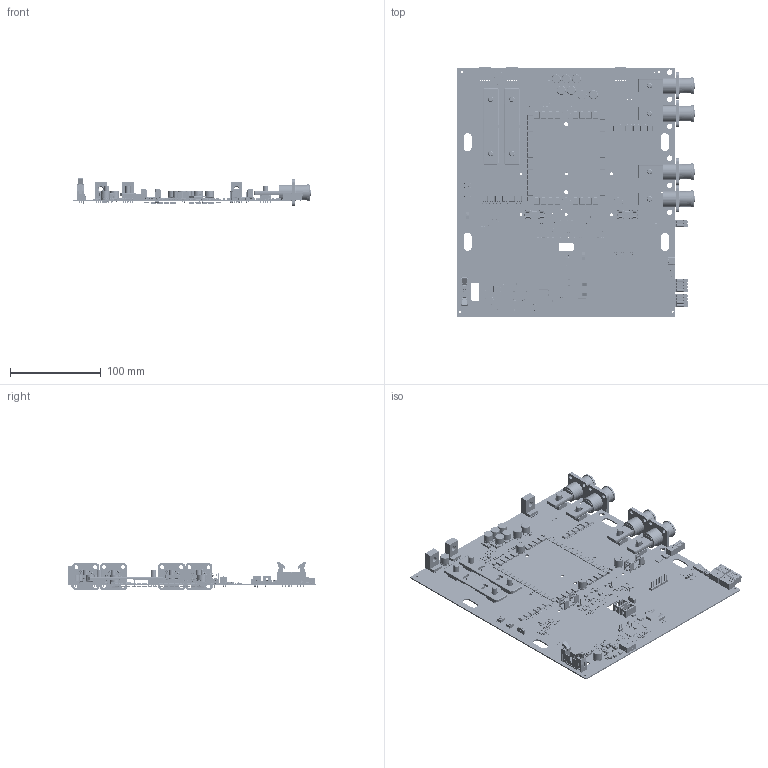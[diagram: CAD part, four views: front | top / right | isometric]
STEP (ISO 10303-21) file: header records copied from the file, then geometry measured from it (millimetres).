
FILE_DESCRIPTION(('KiCad electronic assembly'),'2;1');
FILE_NAME('smartPro.step','2026-01-18T19:30:28',('Pcbnew'),('Kicad'), 'Open CASCADE STEP processor 7.9','KiCad to STEP converter','Unknown' );
FILE_SCHEMA(('AUTOMOTIVE_DESIGN { 1 0 10303 214 1 1 1 1 }'));
Length unit declared in the file: millimetre
Products named in the file (76): smartPro 1; SOT-23-5; D_SMC; R_0603_1608Metric; C_0603_1608Metric; PinHeader_2x05_P1.27mm_Vertical_SMD; C_1210_3225Metric; C_1206_3216Metric; CP_Radial_D10.0mm_P5.00mm; PinHeader_1x02_P2.54mm_Vertical; 61201022021; 10; 6120xx22x21_LEVIER_COURT; 6120xx21621_PIN; TO-252-2; smartPro 1.29.1; SOIC-8_5.3x5.3mm_P1.27mm; LED_0603_1608Metric; PQFN-8-EP_6x5mm_P1.27mm_Generic; 7461098; SOT-23; R_2512_6332Metric; WSBS8518-35_500ÂµO; wsbs 8518 500 micro...; PIN-1001 FOR WSBS 100 E; 430152043826 (rev1); c3d-c-users-nlang-nextcloud-desktop-amphenol-projekte-website-content-p
roduct-documents-data-surlok-c3d-slpirbbpsr4; SOT-353_SC-70-5; D_SMB; 74622106; HSOP-8-1EP_3.9x4.9mm_P1.27mm_EP2.41x3.1mm; ws-sltv_450301014042 (rev1); cover; slide; CP_Elec_10x10; SOT-23-8; Download_STP_WE-LQFS-4818 (rev1); 4818_74406042_Housing; 4818_74406042; 4818_74406042_Pads ...
Assembly tree (622 placements, depth 3):
  smartPro 1
    SOT-23-5  x10
    D_SMC  x33
    R_0603_1608Metric  x202
    C_0603_1608Metric  x93
    PinHeader_2x05_P1.27mm_Vertical_SMD
    C_1210_3225Metric  x32
    C_1206_3216Metric  x13
    CP_Radial_D10.0mm_P5.00mm  x6
    PinHeader_1x02_P2.54mm_Vertical  x3
    61201022021
      10
      6120xx22x21_LEVIER_COURT  x2
      6120xx21621_PIN  x10
    TO-252-2  x13
      smartPro 1.29.1
    SOIC-8_5.3x5.3mm_P1.27mm
    LED_0603_1608Metric  x16
    PQFN-8-EP_6x5mm_P1.27mm_Generic  x65
    7461098  x8
    SOT-23  x14
    R_2512_6332Metric  x3
    WSBS8518-35_500ÂµO  x2
      wsbs 8518 500 micro...
      PIN-1001 FOR WSBS 100 E
    430152043826 (rev1)  x4
    c3d-c-users-nlang-nextcloud-desktop-amphenol-projekte-website-content-p
roduct-documents-data-surlok-c3d-slpirbbpsr4  x4
    SOT-353_SC-70-5  x2
    D_SMB  x2
    74622106  x3
    HSOP-8-1EP_3.9x4.9mm_P1.27mm_EP2.41x3.1mm  x2
    ws-sltv_450301014042 (rev1)  x2
      cover
      slide
    CP_Elec_10x10  x6
    SOT-23-8  x2
    Download_STP_WE-LQFS-4818 (rev1)
      4818_74406042_Housing
      4818_74406042
      4818_74406042
      4818_74406042_Pads  x2
      Glue L
      Glue R
    PhoenixContact_MC_1,5_2-G-3.5_1x02_P3.50mm_Horizontal
    L_0805_2012Metric
    SOIC-8_3.9x4.9mm_P1.27mm  x2
    Download_STEP_691304100002 (rev1)
      691304100002
      691304100002_Bas
      6913041000xx_Levier  x2
      6913041000xx_Pin  x2
      6913041000xx_Lamelle  x2
    CMI-1265-88-SMT-TR
    Crystal_SMD_0603-4Pin_6.0x3.5mm
    USB_C_Receptacle_GCT_USB4105-xx-A_16P_TopMnt_Horizontal
    PinHeader_2x10_P2.54mm_Vertical
    IDC-Header_2x03_P2.54mm_Vertical  x2
    QFN-20-1EP_3x4mm_P0.5mm_EP1.65x2.65mm
    si_halter0031.8221  x2
    LM5190RGYR
Bounding box: 262.5 x 275.04 x 31.59 mm (x, y, z)
Volume: 190523.5 mm3; surface area: 246001.9 mm2
Topology: 778 solids, 792 shells, 35137 faces, 90715 edges, 58038 vertices
Faces by surface type: plane 26210, cylinder 7364, bspline 1041, cone 270, torus 186, extrusion 36, revolution 30
Full cylindrical faces by diameter (mm): 0.1 x14, 0.155 x2, 0.3 x30, 0.5 x4, 0.6 x6, 0.65 x2, 0.7 x17, 0.8 x6, 1 x97, 1.2 x36, 1.4 x2, 1.45 x275, 1.6 x4, 1.9 x1, 2.2 x4, 2.35 x2, 2.5 x16, 3.2 x6, 3.5 x4, 4.3 x2, 4.917 x3, 6 x22, 10 x12
Entity records: 331822 total; most frequent: CARTESIAN_POINT 54782, ORIENTED_EDGE 46876, DIRECTION 45299, EDGE_CURVE 23439, VECTOR 18216, LINE 18190, VERTEX_POINT 15003, AXIS2_PLACEMENT_3D 13539
